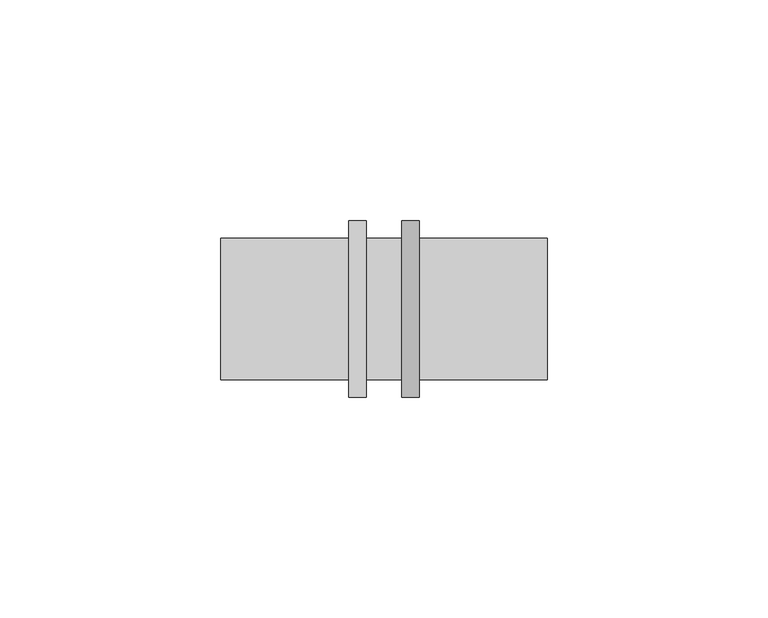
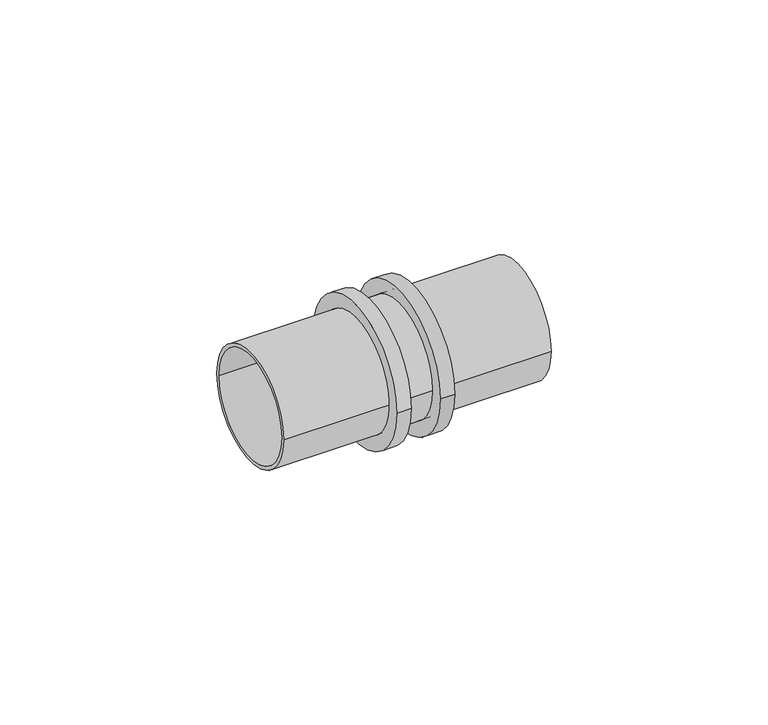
"""IFC4 building model written with IfcOpenShell, lengths in millimetres: pipe fitting geometry, БИР ПЕКС_НПР_Муфта прямая : Муфта соединительная прямая."""

from ifc_helpers import new_model, si_unit, point, frame, origin, origin_2d, place, context, project, spatial, circle_curve, trimmed, segment, composite_curve, outline, extrude, source, transform, mapped, element, save


def pipe_fitting_a613895f(model_context):
    return source(origin(), model_context, "Body", "SweptSolid", [
        extrude(outline(composite_curve([segment(trimmed(circle_curve(origin_2d(), 16.0), [point((-16.0, 0.0))], [point((16.0, 0.0))], False, "CARTESIAN"), True, "CONTINUOUS"), segment(trimmed(circle_curve(origin_2d(), 16.0), [point((16.0, 0.0))], [point((-16.0, 0.0))], False, "CARTESIAN"), True, "CONTINUOUS")], self_intersect=False), holes=[composite_curve([segment(trimmed(circle_curve(origin_2d(), 15.0), [point((-15.0, 0.0))], [point((15.0, 0.0))], True, "CARTESIAN"), True, "CONTINUOUS"), segment(trimmed(circle_curve(origin_2d(), 15.0), [point((15.0, 0.0))], [point((-15.0, 0.0))], True, "CARTESIAN"), True, "CONTINUOUS")], self_intersect=False)]), frame((-37.0, 0.0, 0.0), z_axis=(1.0, 0.0, 0.0), x_axis=(0.0, 1.0, 0.0)), (0.0, 0.0, 1.0), 74.0),
        extrude(outline(composite_curve([segment(trimmed(circle_curve(origin_2d(), 20.0), [point((-20.0, 0.0))], [point((20.0, 0.0))], False, "CARTESIAN"), True, "CONTINUOUS"), segment(trimmed(circle_curve(origin_2d(), 20.0), [point((20.0, 0.0))], [point((-20.0, 0.0))], False, "CARTESIAN"), True, "CONTINUOUS")], self_intersect=False), holes=[composite_curve([segment(trimmed(circle_curve(origin_2d(), 16.0), [point((-16.0, 0.0))], [point((16.0, 0.0))], True, "CARTESIAN"), True, "CONTINUOUS"), segment(trimmed(circle_curve(origin_2d(), 16.0), [point((16.0, 0.0))], [point((-16.0, 0.0))], True, "CARTESIAN"), True, "CONTINUOUS")], self_intersect=False)]), frame((4.0, 0.0, 0.0), z_axis=(1.0, 0.0, 0.0), x_axis=(0.0, 1.0, 0.0)), (0.0, 0.0, 1.0), 4.0),
        extrude(outline(composite_curve([segment(trimmed(circle_curve(origin_2d(), 20.0), [point((-20.0, 0.0))], [point((20.0, 0.0))], False, "CARTESIAN"), True, "CONTINUOUS"), segment(trimmed(circle_curve(origin_2d(), 20.0), [point((20.0, 0.0))], [point((-20.0, 0.0))], False, "CARTESIAN"), True, "CONTINUOUS")], self_intersect=False), holes=[composite_curve([segment(trimmed(circle_curve(origin_2d(), 16.0), [point((-16.0, 0.0))], [point((16.0, 0.0))], True, "CARTESIAN"), True, "CONTINUOUS"), segment(trimmed(circle_curve(origin_2d(), 16.0), [point((16.0, 0.0))], [point((-16.0, 0.0))], True, "CARTESIAN"), True, "CONTINUOUS")], self_intersect=False)]), frame((-8.0, 0.0, 0.0), z_axis=(1.0, 0.0, 0.0), x_axis=(0.0, 1.0, 0.0)), (0.0, 0.0, 1.0), 4.0),
        extrude(outline(composite_curve([segment(trimmed(circle_curve(origin_2d(), 16.0), [point((-16.0, 0.0))], [point((16.0, 0.0))], False, "CARTESIAN"), True, "CONTINUOUS"), segment(trimmed(circle_curve(origin_2d(), 16.0), [point((16.0, 0.0))], [point((-16.0, 0.0))], False, "CARTESIAN"), True, "CONTINUOUS")], self_intersect=False)), frame((-8.0, 0.0, 0.0), z_axis=(1.0, 0.0, 0.0), x_axis=(0.0, 1.0, 0.0)), (0.0, 0.0, 1.0), 16.0),
    ])


if __name__ == "__main__":
    model = new_model("IFC4")
    model_context = context("Model", 3, world=origin())
    ifc_project = project(units=[si_unit("LENGTHUNIT", "METRE", prefix="MILLI")], contexts=[model_context])
    site = spatial("IfcSite", under=ifc_project)
    building = spatial("IfcBuilding", under=site)
    placement = place(None, origin())
    pipe_fitting_shape = pipe_fitting_a613895f(model_context)
    element("IfcPipeFitting", 1, ObjectType="БИР ПЕКС_НПР_Муфта прямая : Муфта соединительная прямая", at=placement, inside=building, context=model_context, shape_type="MappedRepresentation", body=[
        mapped(pipe_fitting_shape, transform((0.0, 0.0, 0.0), x_axis=(1.0, 0.0, 0.0), y_axis=(0.0, 1.0, 0.0), z_axis=(0.0, 0.0, 1.0))),
    ])
    save(model, "model.ifc")
